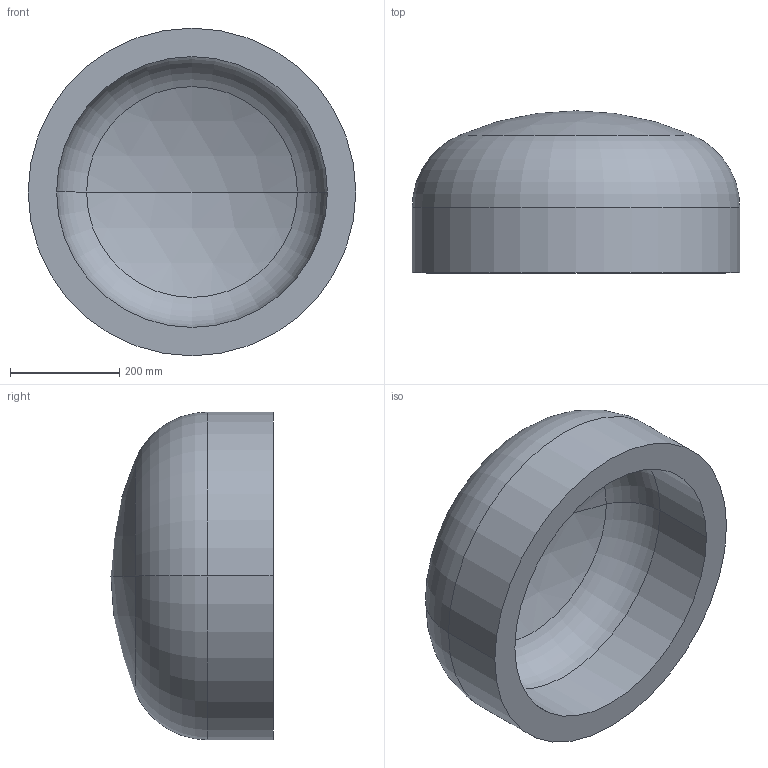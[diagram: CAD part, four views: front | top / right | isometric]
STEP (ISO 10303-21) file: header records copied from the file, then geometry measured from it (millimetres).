
FILE_DESCRIPTION (( 'STEP AP203' ), '1' );
FILE_NAME ('DIN 28013 Korbbogenform_-_Boden DIN 28013 - 600 x 120 - I - s=52.step', '2016-07-01T08:01:39', ( '' ), ( '' ), 'SwSTEP 2.0', 'SolidWorks 2013', '' );
FILE_SCHEMA (( 'CONFIG_CONTROL_DESIGN' ));
Length unit declared in the file: millimetre
Products named in the file (1): DIN 28013 Korbbogenform_-_Boden DIN 28013 - 600 x 120 - I - s=52
Bounding box: 600 x 296.74 x 600 mm (x, y, z)
Volume: 28999882.5 mm3; surface area: 1210566 mm2
Topology: 1 solids, 1 shells, 13 faces, 24 edges, 14 vertices
Faces by surface type: torus 4, cylinder 4, sphere 4, plane 1
Entity records: 407 total; most frequent: DIRECTION 72, CARTESIAN_POINT 52, ORIENTED_EDGE 48, AXIS2_PLACEMENT_3D 34, EDGE_CURVE 24, CIRCLE 20, VERTEX_POINT 14, EDGE_LOOP 14
